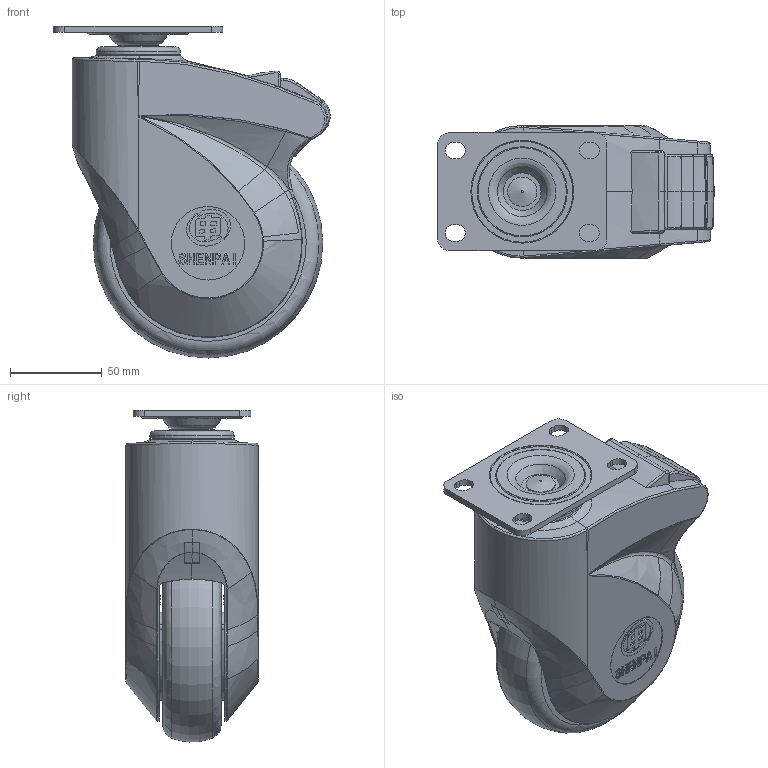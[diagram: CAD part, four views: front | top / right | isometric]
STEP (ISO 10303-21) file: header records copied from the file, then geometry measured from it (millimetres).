
FILE_DESCRIPTION(/* description */ (''),/* implementation_level */ '2;1');
FILE_NAME(/* name */ '80C07_5_F.stp',/* time_stamp */ '2022-10-17T15:16:52+08:00',/* author */ (''),/* organization */ (''),/* preprocessor_version */ 'ST-DEVELOPER v14',/* originating_system */ 'SIEMENS PLM Software NX 8.0',/* authorisation */ '');
FILE_SCHEMA (('AUTOMOTIVE_DESIGN { 1 0 10303 214 3 1 1 1 }'));
Products named in the file (1): 80C07_5_F
Bounding box: 150.5 x 72 x 180.77 mm (x, y, z)
Volume: 498389.8 mm3; surface area: 227725.3 mm2
Topology: 1 solids, 4 shells, 2106 faces, 5859 edges, 3766 vertices
Faces by surface type: plane 969, cylinder 487, bspline 424, torus 168, cone 54, sphere 4
Full cylindrical faces by diameter (mm): 4 x7, 4.2 x6, 5 x3, 5.2 x1, 8 x1, 10 x2, 10.2 x2, 12 x1, 12.2 x1, 15 x2, 15.2 x2, 16 x1, 21.6 x4, 24 x2, 24.5 x1, 26 x1, 28 x1, 29.4 x4, 30 x1, 32 x2, 35 x1, 35.5 x2, 40 x2, 40.5 x1, 48 x1, 55.5 x1, 56 x2, 61 x1, 90.5 x2, 99.5 x2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
Entity records: 96895 total; most frequent: CARTESIAN_POINT 48779, ORIENTED_EDGE 11400, DIRECTION 7992, EDGE_CURVE 5700, VERTEX_POINT 3719, AXIS2_PLACEMENT_3D 2835, EDGE_LOOP 2357, LINE 2322
